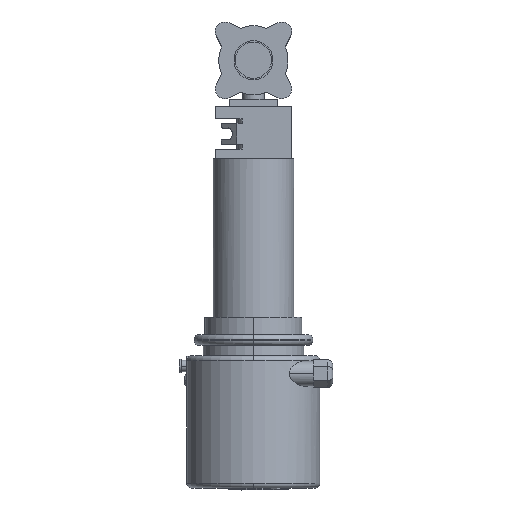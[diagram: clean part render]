
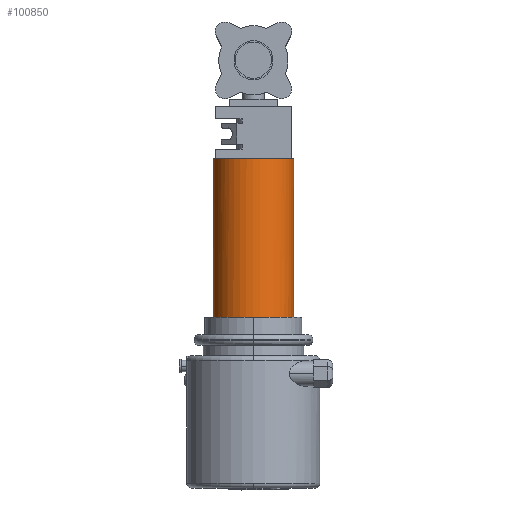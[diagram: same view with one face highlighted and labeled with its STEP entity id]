
A CAD part, top view. The second image highlights one B-rep face of the part: STEP entity #100850.
In plain terms, the highlighted cylindrical face has radius 42.5 mm (diameter 85 mm), a partial arc.
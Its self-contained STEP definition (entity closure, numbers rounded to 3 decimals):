
#100=CARTESIAN_POINT('',(-40.,0.,-14.361));
#110=VERTEX_POINT('',#100);
#160=CARTESIAN_POINT('',(0.,0.,0.));
#170=DIRECTION('',(0.,1.,0.));
#180=DIRECTION('',(-1.,0.,0.));
#190=AXIS2_PLACEMENT_3D('',#160,#170,#180);
#200=CIRCLE('',#190,42.5);
#210=CARTESIAN_POINT('',(-42.5,0.,0.));
#220=VERTEX_POINT('',#210);
#230=EDGE_CURVE('',#110,#220,#200,.T.);
#500=CARTESIAN_POINT('',(0.,167.,0.));
#510=DIRECTION('',(0.,1.,0.));
#520=DIRECTION('',(-1.,0.,0.));
#530=AXIS2_PLACEMENT_3D('',#500,#510,#520);
#540=CIRCLE('',#530,42.5);
#550=CARTESIAN_POINT('',(-42.5,167.,0.));
#560=VERTEX_POINT('',#550);
#570=CARTESIAN_POINT('',(42.5,167.,0.));
#580=VERTEX_POINT('',#570);
#610=EDGE_CURVE('',#580,#560,#540,.T.);
#710=CARTESIAN_POINT('',(-42.5,83.5,0.));
#720=DIRECTION('',(0.,-1.,0.));
#730=VECTOR('',#720,1.);
#740=LINE('',#710,#730);
#750=EDGE_CURVE('',#560,#220,#740,.T.);
#780=CARTESIAN_POINT('',(42.5,83.5,0.));
#790=DIRECTION('',(0.,-1.,0.));
#800=VECTOR('',#790,1.);
#810=LINE('',#780,#800);
#820=CARTESIAN_POINT('',(42.5,0.,0.));
#830=VERTEX_POINT('',#820);
#840=EDGE_CURVE('',#580,#830,#810,.T.);
#900=CARTESIAN_POINT('',(0.,0.,0.));
#910=DIRECTION('',(0.,-1.,0.));
#920=DIRECTION('',(-1.,0.,0.));
#930=AXIS2_PLACEMENT_3D('',#900,#910,#920);
#940=CIRCLE('',#930,42.5);
#7630=CARTESIAN_POINT('',(14.361,0.,-40.));
#7640=VERTEX_POINT('',#7630);
#7650=CARTESIAN_POINT('',(-14.361,0.,-40.));
#7660=VERTEX_POINT('',#7650);
#7670=EDGE_CURVE('',#7640,#7660,#200,.T.);
#7890=CARTESIAN_POINT('',(40.,0.,
-14.361));
#7900=VERTEX_POINT('',#7890);
#7910=EDGE_CURVE('',#830,#7900,#200,.T.);
#24960=EDGE_CURVE('',#110,#7660,#940,.T.);
#25010=EDGE_CURVE('',#7640,#7900,#940,.T.);
#100700=CARTESIAN_POINT('',(0.,83.5,0.));
#100710=DIRECTION('',(0.,-1.,0.));
#100720=DIRECTION('',(-1.,0.,0.));
#100730=AXIS2_PLACEMENT_3D('',#100700,#100710,#100720);
#100740=CYLINDRICAL_SURFACE('',#100730,42.5);
#100750=ORIENTED_EDGE('',*,*,#750,.F.);
#100760=ORIENTED_EDGE('',*,*,#230,.T.);
#100770=ORIENTED_EDGE('',*,*,#24960,.F.);
#100780=ORIENTED_EDGE('',*,*,#7670,.T.);
#100790=ORIENTED_EDGE('',*,*,#25010,.F.);
#100800=ORIENTED_EDGE('',*,*,#7910,.T.);
#100810=ORIENTED_EDGE('',*,*,#840,.T.);
#100820=ORIENTED_EDGE('',*,*,#610,.F.);
#100830=EDGE_LOOP('',(#100820,#100810,#100800,#100790,#100780,#100770,
#100760,#100750));
#100840=FACE_OUTER_BOUND('',#100830,.T.);
#100850=ADVANCED_FACE('',(#100840),#100740,.T.);
